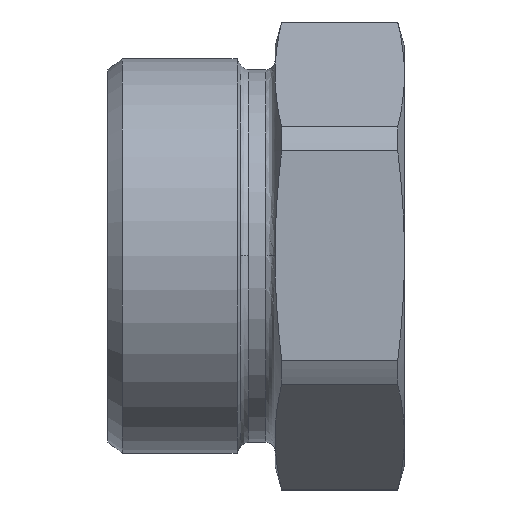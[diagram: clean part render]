
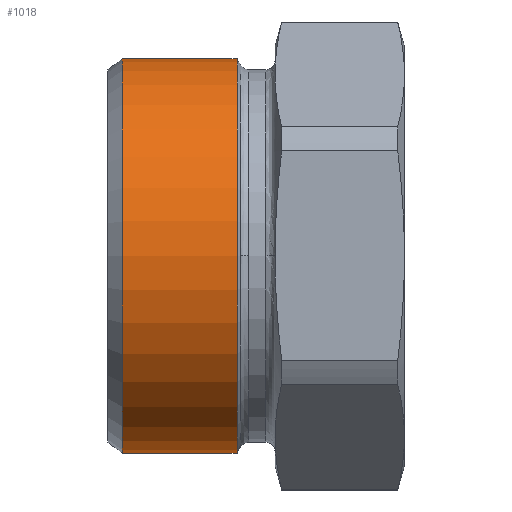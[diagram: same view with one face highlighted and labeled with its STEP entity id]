
A CAD part, top view. The second image highlights one B-rep face of the part: STEP entity #1018.
In plain terms, the highlighted cylindrical face has radius 25.91 mm (diameter 51.82 mm), a partial arc.
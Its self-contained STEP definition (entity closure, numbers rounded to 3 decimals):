
#368=CARTESIAN_POINT('',(0.,-25.91,28.563));
#369=VERTEX_POINT('',#368);
#370=CARTESIAN_POINT('',(0.,-25.91,13.493));
#371=VERTEX_POINT('',#370);
#372=CARTESIAN_POINT('',(0.,-25.91,28.563));
#373=DIRECTION('',(0.0,0.0,-1.0));
#374=VECTOR('',#373,15.07);
#375=LINE('',#372,#374);
#376=EDGE_CURVE('',#369,#371,#375,.T.);
#378=CARTESIAN_POINT('',(0.,25.91,28.563));
#379=VERTEX_POINT('',#378);
#387=CARTESIAN_POINT('',(0.,25.91,13.493));
#388=VERTEX_POINT('',#387);
#389=CARTESIAN_POINT('',(0.,25.91,13.493));
#390=DIRECTION('',(0.0,0.0,1.0));
#391=VECTOR('',#390,15.07);
#392=LINE('',#389,#391);
#393=EDGE_CURVE('',#388,#379,#392,.T.);
#894=CARTESIAN_POINT('',(0.,0.,13.493));
#895=DIRECTION('',(0.0,0.0,-1.0));
#896=DIRECTION('',(0.0,-1.0,0.0));
#897=AXIS2_PLACEMENT_3D('',#894,#895,#896);
#898=CIRCLE('',#897,25.91);
#899=EDGE_CURVE('',#388,#371,#898,.T.);
#995=CARTESIAN_POINT('',(0.,0.,28.563));
#996=DIRECTION('',(0.0,0.0,-1.0));
#997=DIRECTION('',(0.0,-1.0,0.0));
#998=AXIS2_PLACEMENT_3D('',#995,#996,#997);
#999=CIRCLE('',#998,25.91);
#1000=EDGE_CURVE('',#379,#369,#999,.T.);
#1007=CARTESIAN_POINT('',(0.,0.,21.028));
#1008=DIRECTION('',(0.,0.,-1.0));
#1009=DIRECTION('',(0.0,-1.0,0.0));
#1010=AXIS2_PLACEMENT_3D('',#1007,#1008,#1009);
#1011=CYLINDRICAL_SURFACE('',#1010,25.91);
#1012=ORIENTED_EDGE('',*,*,#376,.T.);
#1013=ORIENTED_EDGE('',*,*,#899,.F.);
#1014=ORIENTED_EDGE('',*,*,#393,.T.);
#1015=ORIENTED_EDGE('',*,*,#1000,.T.);
#1016=EDGE_LOOP('',(#1012,#1013,#1014,#1015));
#1017=FACE_OUTER_BOUND('',#1016,.T.);
#1018=ADVANCED_FACE('',(#1017),#1011,.T.);
